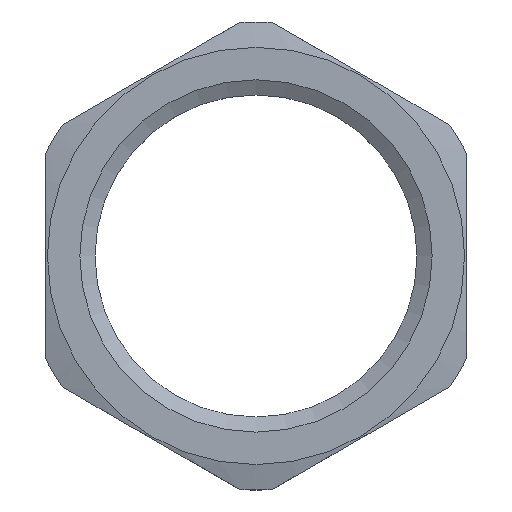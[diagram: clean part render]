
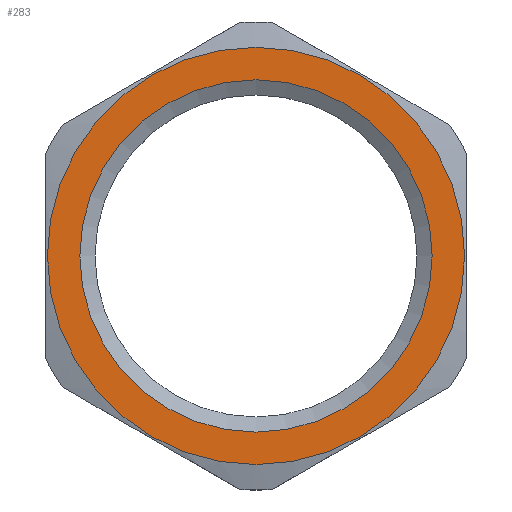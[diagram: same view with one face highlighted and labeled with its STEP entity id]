
A CAD part, top view. The second image highlights one B-rep face of the part: STEP entity #283.
In plain terms, the highlighted planar face has unit normal (0, 0, 1).
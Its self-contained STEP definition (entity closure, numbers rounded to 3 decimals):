
#159 = ORIENTED_EDGE ( 'NONE', *, *, #228, .F. ) ;
#228 = EDGE_CURVE ( 'NONE', #338, #279, #1127, .T. ) ;
#279 = VERTEX_POINT ( 'NONE', #1157 ) ;
#283 = ADVANCED_FACE ( 'NONE', ( #1152, #1151 ), #1150, .F. ) ;
#285 = ORIENTED_EDGE ( 'NONE', *, *, #287, .T. ) ;
#286 = ORIENTED_EDGE ( 'NONE', *, *, #363, .T. ) ;
#287 = EDGE_CURVE ( 'NONE', #354, #364, #1145, .T. ) ;
#323 = EDGE_CURVE ( 'NONE', #279, #338, #1022, .T. ) ;
#324 = EDGE_LOOP ( 'NONE', ( #325, #159 ) ) ;
#325 = ORIENTED_EDGE ( 'NONE', *, *, #323, .F. ) ;
#326 = EDGE_LOOP ( 'NONE', ( #285, #286 ) ) ;
#338 = VERTEX_POINT ( 'NONE', #1732 ) ;
#354 = VERTEX_POINT ( 'NONE', #1751 ) ;
#363 = EDGE_CURVE ( 'NONE', #364, #354, #1860, .T. ) ;
#364 = VERTEX_POINT ( 'NONE', #1855 ) ;
#720 = AXIS2_PLACEMENT_3D ( 'NONE', #764, #763, #796 ) ;
#763 = DIRECTION ( 'NONE',  ( 0., 0., 1. ) ) ;
#764 = CARTESIAN_POINT ( 'NONE',  ( 0., 0., 0. ) ) ;
#796 = DIRECTION ( 'NONE',  ( 1., 0., 0. ) ) ;
#1022 = CIRCLE ( 'NONE', #720, 10.05 ) ;
#1123 = DIRECTION ( 'NONE',  ( 1., 0., 0. ) ) ;
#1124 = DIRECTION ( 'NONE',  ( 0., 0., 1. ) ) ;
#1125 = CARTESIAN_POINT ( 'NONE',  ( 0., 0., 0. ) ) ;
#1126 = AXIS2_PLACEMENT_3D ( 'NONE', #1125, #1124, #1123 ) ;
#1127 = CIRCLE ( 'NONE', #1126, 10.05 ) ;
#1141 = DIRECTION ( 'NONE',  ( 1., 0., 0. ) ) ;
#1142 = DIRECTION ( 'NONE',  ( 0., 0., 1. ) ) ;
#1143 = CARTESIAN_POINT ( 'NONE',  ( 0., 0., 0. ) ) ;
#1144 = AXIS2_PLACEMENT_3D ( 'NONE', #1143, #1142, #1141 ) ;
#1145 = CIRCLE ( 'NONE', #1144, 11.9 ) ;
#1146 = DIRECTION ( 'NONE',  ( -1., 0., 0. ) ) ;
#1147 = DIRECTION ( 'NONE',  ( 0., 0., -1. ) ) ;
#1148 = CARTESIAN_POINT ( 'NONE',  ( 0., 0., 0. ) ) ;
#1149 = AXIS2_PLACEMENT_3D ( 'NONE', #1148, #1147, #1146 ) ;
#1150 = PLANE ( 'NONE',  #1149 ) ;
#1151 = FACE_BOUND ( 'NONE', #324, .T. ) ;
#1152 = FACE_OUTER_BOUND ( 'NONE', #326, .T. ) ;
#1157 = CARTESIAN_POINT ( 'NONE',  ( 10.05, 0., 0. ) ) ;
#1732 = CARTESIAN_POINT ( 'NONE',  ( -10.05, 0., 0. ) ) ;
#1751 = CARTESIAN_POINT ( 'NONE',  ( -11.9, 0., 0. ) ) ;
#1855 = CARTESIAN_POINT ( 'NONE',  ( 11.9, 0., 0. ) ) ;
#1856 = DIRECTION ( 'NONE',  ( 1., 0., 0. ) ) ;
#1857 = DIRECTION ( 'NONE',  ( 0., 0., 1. ) ) ;
#1858 = CARTESIAN_POINT ( 'NONE',  ( 0., 0., 0. ) ) ;
#1859 = AXIS2_PLACEMENT_3D ( 'NONE', #1858, #1857, #1856 ) ;
#1860 = CIRCLE ( 'NONE', #1859, 11.9 ) ;
